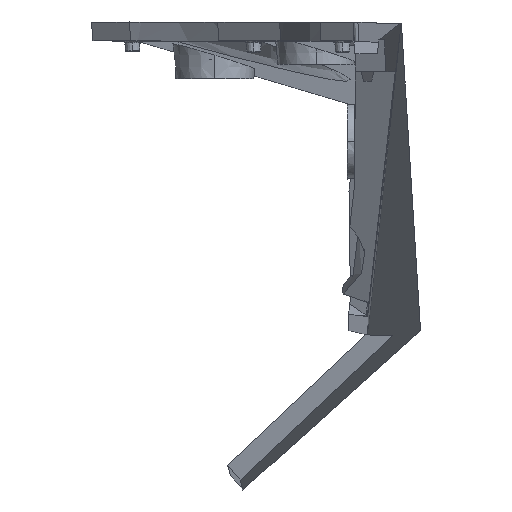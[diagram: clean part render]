
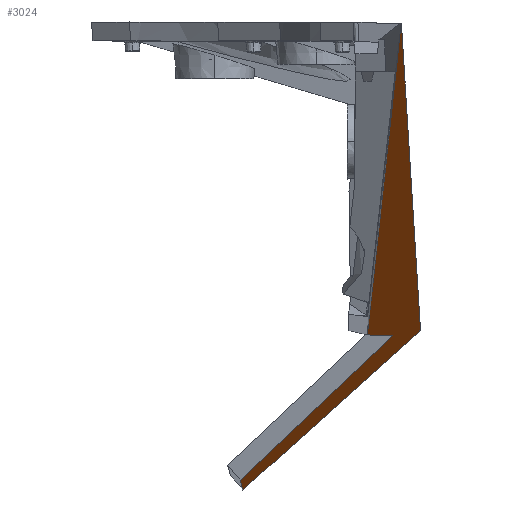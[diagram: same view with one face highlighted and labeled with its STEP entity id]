
A CAD part, left-side view. The second image highlights one B-rep face of the part: STEP entity #3024.
In plain terms, the highlighted planar face has unit normal (-0.093, -0.669, -0.738).
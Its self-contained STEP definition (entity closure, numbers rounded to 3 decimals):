
#50 = CARTESIAN_POINT ( 'NONE',  ( 316.987, 13.062, 26.635 ) ) ;
#199 = VERTEX_POINT ( 'NONE', #9741 ) ;
#493 = DIRECTION ( 'NONE',  ( -0.218, -0.709, 0.67 ) ) ;
#494 = VERTEX_POINT ( 'NONE', #6418 ) ;
#598 = CARTESIAN_POINT ( 'NONE',  ( 260.313, 16.274, 30.874 ) ) ;
#644 = LINE ( 'NONE', #7565, #9708 ) ;
#650 = B_SPLINE_CURVE_WITH_KNOTS ( 'NONE', 3,
 ( #598, #6059, #8166, #2848 ),
 .UNSPECIFIED., .F., .F.,
 ( 4, 4 ),
 ( 0., 1. ),
 .UNSPECIFIED. ) ;
#694 = CARTESIAN_POINT ( 'NONE',  ( 10.181, 15.346, 63.271 ) ) ;
#710 = CARTESIAN_POINT ( 'NONE',  ( 10.015, 15.373, 63.27 ) ) ;
#1169 = EDGE_LOOP ( 'NONE', ( #1866, #8248, #5027, #5912, #2173, #6479, #1180 ) ) ;
#1180 = ORIENTED_EDGE ( 'NONE', *, *, #7775, .F. ) ;
#1365 = CARTESIAN_POINT ( 'NONE',  ( 10.015, 15.373, 63.27 ) ) ;
#1689 = DIRECTION ( 'NONE',  ( 0.093, 0.669, 0.738 ) ) ;
#1866 = ORIENTED_EDGE ( 'NONE', *, *, #2555, .T. ) ;
#1948 = CARTESIAN_POINT ( 'NONE',  ( 275.501, 31.803, 14.882 ) ) ;
#2173 = ORIENTED_EDGE ( 'NONE', *, *, #7015, .T. ) ;
#2211 = CARTESIAN_POINT ( 'NONE',  ( 163.788, 17.713, 41.747 ) ) ;
#2555 = EDGE_CURVE ( 'NONE', #7679, #494, #3038, .T. ) ;
#2609 = VERTEX_POINT ( 'NONE', #5651 ) ;
#2740 = EDGE_CURVE ( 'NONE', #6138, #199, #650, .T. ) ;
#2848 = CARTESIAN_POINT ( 'NONE',  ( 240.675, 18.884, 30.986 ) ) ;
#2880 = VERTEX_POINT ( 'NONE', #694 ) ;
#3024 = ADVANCED_FACE ( 'NONE', ( #4497 ), #6109, .F. ) ;
#3038 = LINE ( 'NONE', #3881, #8121 ) ;
#3149 = DIRECTION ( 'NONE',  ( 0.99, -0.138, 0. ) ) ;
#3163 = CARTESIAN_POINT ( 'NONE',  ( 10.126, 15.355, 63.272 ) ) ;
#3314 = CARTESIAN_POINT ( 'NONE',  ( 10.015, 15.373, 63.27 ) ) ;
#3403 = CARTESIAN_POINT ( 'NONE',  ( 187.895, 14.024, 42.05 ) ) ;
#3500 = CARTESIAN_POINT ( 'NONE',  ( 276.751, 13.362, 31.439 ) ) ;
#3881 = CARTESIAN_POINT ( 'NONE',  ( 265.181, 32.095, 15.919 ) ) ;
#4053 = CARTESIAN_POINT ( 'NONE',  ( 10.181, 15.346, 63.271 ) ) ;
#4497 = FACE_OUTER_BOUND ( 'NONE', #1169, .T. ) ;
#5027 = ORIENTED_EDGE ( 'NONE', *, *, #9642, .T. ) ;
#5566 = CARTESIAN_POINT ( 'NONE',  ( 99.038, 14.685, 52.661 ) ) ;
#5613 = CARTESIAN_POINT ( 'NONE',  ( 10.181, 15.346, 63.271 ) ) ;
#5651 = CARTESIAN_POINT ( 'NONE',  ( 276.751, 13.362, 31.439 ) ) ;
#5912 = ORIENTED_EDGE ( 'NONE', *, *, #7040, .F. ) ;
#6059 = CARTESIAN_POINT ( 'NONE',  ( 253.767, 17.144, 30.911 ) ) ;
#6109 = PLANE ( 'NONE',  #6867 ) ;
#6138 = VERTEX_POINT ( 'NONE', #8871 ) ;
#6144 = DIRECTION ( 'NONE',  ( 0.995, -0.028, -0.1 ) ) ;
#6278 = CARTESIAN_POINT ( 'NONE',  ( 276.751, 13.362, 31.439 ) ) ;
#6418 = CARTESIAN_POINT ( 'NONE',  ( 275.501, 31.803, 14.882 ) ) ;
#6420 = B_SPLINE_CURVE_WITH_KNOTS ( 'NONE', 3,
 ( #3500, #7479, #8178, #1948 ),
 .UNSPECIFIED., .F., .F.,
 ( 4, 4 ),
 ( 0., 1. ),
 .UNSPECIFIED. ) ;
#6479 = ORIENTED_EDGE ( 'NONE', *, *, #2740, .F. ) ;
#6867 = AXIS2_PLACEMENT_3D ( 'NONE', #50, #1689, #3149 ) ;
#6890 = B_SPLINE_CURVE_WITH_KNOTS ( 'NONE', 3,
 ( #1365, #8290, #2211, #7489 ),
 .UNSPECIFIED., .F., .F.,
 ( 4, 4 ),
 ( 0., 1. ),
 .UNSPECIFIED. ) ;
#7013 = B_SPLINE_CURVE_WITH_KNOTS ( 'NONE', 3,
 ( #710, #7028, #3163, #4053 ),
 .UNSPECIFIED., .F., .F.,
 ( 4, 4 ),
 ( 0., 1. ),
 .UNSPECIFIED. ) ;
#7015 = EDGE_CURVE ( 'NONE', #9639, #199, #6890, .T. ) ;
#7028 = CARTESIAN_POINT ( 'NONE',  ( 10.071, 15.364, 63.272 ) ) ;
#7040 = EDGE_CURVE ( 'NONE', #9639, #2880, #7013, .T. ) ;
#7479 = CARTESIAN_POINT ( 'NONE',  ( 276.335, 19.509, 25.92 ) ) ;
#7489 = CARTESIAN_POINT ( 'NONE',  ( 240.675, 18.884, 30.986 ) ) ;
#7565 = CARTESIAN_POINT ( 'NONE',  ( 265.181, 32.095, 15.919 ) ) ;
#7679 = VERTEX_POINT ( 'NONE', #9072 ) ;
#7775 = EDGE_CURVE ( 'NONE', #7679, #6138, #644, .T. ) ;
#8121 = VECTOR ( 'NONE', #6144, 1000. ) ;
#8166 = CARTESIAN_POINT ( 'NONE',  ( 247.221, 18.013, 30.949 ) ) ;
#8178 = CARTESIAN_POINT ( 'NONE',  ( 275.918, 25.656, 20.401 ) ) ;
#8248 = ORIENTED_EDGE ( 'NONE', *, *, #9752, .F. ) ;
#8290 = CARTESIAN_POINT ( 'NONE',  ( 86.902, 16.543, 52.508 ) ) ;
#8871 = CARTESIAN_POINT ( 'NONE',  ( 260.313, 16.274, 30.874 ) ) ;
#8932 = B_SPLINE_CURVE_WITH_KNOTS ( 'NONE', 3,
 ( #6278, #3403, #5566, #5613 ),
 .UNSPECIFIED., .F., .F.,
 ( 4, 4 ),
 ( 0., 1. ),
 .UNSPECIFIED. ) ;
#9072 = CARTESIAN_POINT ( 'NONE',  ( 265.181, 32.095, 15.919 ) ) ;
#9639 = VERTEX_POINT ( 'NONE', #3314 ) ;
#9642 = EDGE_CURVE ( 'NONE', #2609, #2880, #8932, .T. ) ;
#9708 = VECTOR ( 'NONE', #493, 1000. ) ;
#9741 = CARTESIAN_POINT ( 'NONE',  ( 240.675, 18.884, 30.986 ) ) ;
#9752 = EDGE_CURVE ( 'NONE', #2609, #494, #6420, .T. ) ;
